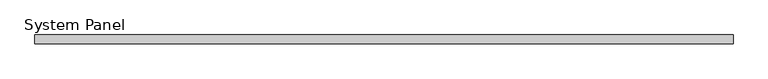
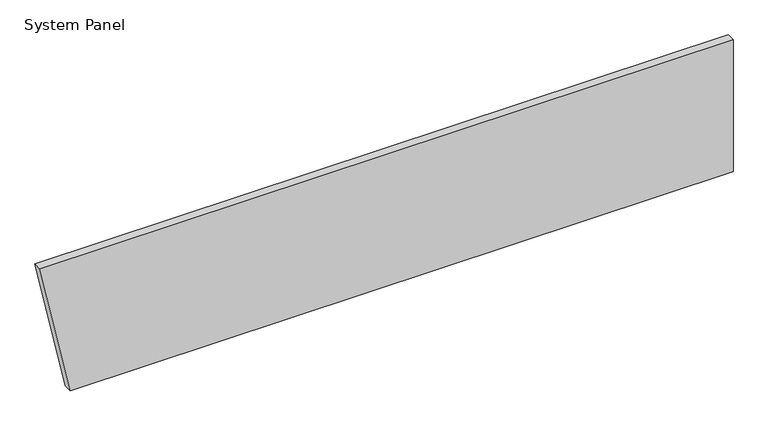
"""IFC4 building model written with IfcOpenShell, lengths in millimetres: plate geometry, System Panel : Equitilt 75mm Horizontal - Plain RHEA - EPS-FR."""

import ifcopenshell
import ifcopenshell.guid

model = None  # the IFC model being written
_history = None  # IfcOwnerHistory: only IFC2X3 demands one
_inside = {}  # id of a spatial element -> (the spatial element, [elements in it])
_under = {}  # id of a project, library or spatial element -> (it, [spatial elements below it])
_declared = {}  # id of a project -> (the project, [libraries it declares])
_typed = {}  # id of a type object -> (the type object, [elements of that type])
_made_of = {}  # id of a material, layer set ... -> (it, [elements and type objects made of it])


def new_model(schema):
    """Start an empty IFC model of exactly this schema.

    Asked for "IFC4X3", IfcOpenShell would pick the latest addendum, in which some entities
    have other attributes; the version numbers below select the first issue.
    IFC2X3 requires an IfcOwnerHistory on every rooted entity: one is made here for all.
    """
    global model, _history
    if schema == "IFC4X3":
        model = ifcopenshell.file(schema_version=(4, 3, 0, 0))
    else:
        model = ifcopenshell.file(schema=schema)
    _inside.clear()
    _under.clear()
    _declared.clear()
    _typed.clear()
    _made_of.clear()
    _history = None
    if model.schema == "IFC2X3":
        org = make("IfcOrganization", Name="unknown")
        user = make(
            "IfcPersonAndOrganization",
            ThePerson=make("IfcPerson", FamilyName="unknown"),
            TheOrganization=org,
        )
        app = make(
            "IfcApplication",
            ApplicationDeveloper=org,
            Version="unknown",
            ApplicationFullName="unknown",
            ApplicationIdentifier="unknown",
        )
        _history = make(
            "IfcOwnerHistory",
            OwningUser=user,
            OwningApplication=app,
            ChangeAction="ADDED",
            CreationDate=0,
        )
    return model


def make(cls, **values):
    """One entity of the class cls with the attributes given. An attribute that is None is left unset."""
    return model.create_entity(
        cls, **{name: value for name, value in values.items() if value is not None}
    )


def rooted(cls, **values):
    """An entity with a GlobalId (a new one), such as an element, a storey or a relation."""
    return make(cls, GlobalId=ifcopenshell.guid.new(), OwnerHistory=_history, **values)


def si_unit(unit_type, name, prefix=None):
    """IfcSIUnit, for example si_unit("LENGTHUNIT", "METRE", prefix="MILLI")."""
    return make("IfcSIUnit", UnitType=unit_type, Prefix=prefix, Name=name)


def assignment(units):
    """IfcUnitAssignment: the units of a project."""
    return None if units is None else make("IfcUnitAssignment", Units=units)


def point(xyz):
    """IfcCartesianPoint."""
    return None if xyz is None else make("IfcCartesianPoint", Coordinates=xyz)


def direction(xyz):
    """IfcDirection."""
    return None if xyz is None else make("IfcDirection", DirectionRatios=xyz)


def frame(location, z_axis=None, x_axis=None):
    """IfcAxis2Placement3D, a coordinate frame: its origin and axes. An axis left out is left unset."""
    return make(
        "IfcAxis2Placement3D",
        Location=point(location),
        Axis=direction(z_axis),
        RefDirection=direction(x_axis),
    )


def origin():
    """The frame at (0, 0, 0) with its axes left unset."""
    return frame((0.0, 0.0, 0.0))


def place(relative_to, where):
    """IfcLocalPlacement: puts the frame where relative to a parent placement (None: the world)."""
    return make(
        "IfcLocalPlacement", PlacementRelTo=relative_to, RelativePlacement=where
    )


def context(
    kind, dimensions, precision=None, world=None, true_north=None, identifier=None
):
    """IfcGeometricRepresentationContext, for example the 3D "Model" context."""
    return make(
        "IfcGeometricRepresentationContext",
        ContextIdentifier=identifier,
        ContextType=kind,
        CoordinateSpaceDimension=dimensions,
        Precision=precision,
        WorldCoordinateSystem=world,
        TrueNorth=true_north,
    )


def project(units=None, contexts=None):
    """IfcProject with its units and contexts."""
    return rooted(
        "IfcProject",
        Name="project",
        RepresentationContexts=contexts,
        UnitsInContext=assignment(units),
    )


def spatial(cls, under=None, at=None, **own):
    """A site, building, storey or space (cls), placed at a placement, below another one or the project."""
    s = rooted(cls, ObjectPlacement=at, **own)
    if under is not None:
        _under.setdefault(under.id(), (under, []))[1].append(s)
    return s


def polyline(points):
    """IfcPolyline through the points."""
    return make("IfcPolyline", Points=[point(p) for p in points])


def outline(outer, holes=None, kind="AREA"):
    """IfcArbitraryClosedProfileDef: a profile drawn as a closed curve; with holes, ...WithVoids."""
    if holes is None:
        return make("IfcArbitraryClosedProfileDef", ProfileType=kind, OuterCurve=outer)
    return make(
        "IfcArbitraryProfileDefWithVoids",
        ProfileType=kind,
        OuterCurve=outer,
        InnerCurves=holes,
    )


def extrude(swept, where, along, depth):
    """IfcExtrudedAreaSolid: the profile swept, set in the frame where, extruded along a direction by depth."""
    return make(
        "IfcExtrudedAreaSolid",
        SweptArea=swept,
        Position=where,
        ExtrudedDirection=direction(along),
        Depth=depth,
    )


def shape(context_of_items, identifier, shape_type, items):
    """IfcShapeRepresentation: the items that make up one representation, for example the "Body"."""
    return make(
        "IfcShapeRepresentation",
        ContextOfItems=context_of_items,
        RepresentationIdentifier=identifier,
        RepresentationType=shape_type,
        Items=items,
    )


def source(mapping_origin, context_of_items, identifier, shape_type, items):
    """IfcRepresentationMap: a shape defined once, which mapped items show again and again."""
    return make(
        "IfcRepresentationMap",
        MappingOrigin=mapping_origin,
        MappedRepresentation=shape(context_of_items, identifier, shape_type, items),
    )


def transform(
    local_origin,
    x_axis=None,
    y_axis=None,
    z_axis=None,
    scale=None,
    scale2=None,
    scale3=None,
    uniform=True,
):
    """IfcCartesianTransformationOperator3D, or its non-uniform kind. x_axis, y_axis, z_axis: its Axis1, 2, 3."""
    if uniform:
        return make(
            "IfcCartesianTransformationOperator3D",
            Axis1=direction(x_axis),
            Axis2=direction(y_axis),
            LocalOrigin=point(local_origin),
            Scale=scale,
            Axis3=direction(z_axis),
        )
    return make(
        "IfcCartesianTransformationOperator3DnonUniform",
        Axis1=direction(x_axis),
        Axis2=direction(y_axis),
        LocalOrigin=point(local_origin),
        Scale=scale,
        Axis3=direction(z_axis),
        Scale2=scale2,
        Scale3=scale3,
    )


def mapped(mapping_source, mapping_target):
    """IfcMappedItem: shows the shape of a source again, moved by a transform."""
    return make(
        "IfcMappedItem", MappingSource=mapping_source, MappingTarget=mapping_target
    )


def made_of(thing, what):
    """Note that an element or type object is made of a material, layer set ...; save() writes the relation."""
    if what is not None:
        _made_of.setdefault(what.id(), (what, []))[1].append(thing)
    return thing


def element(
    cls,
    number,
    at=None,
    inside=None,
    cuts=None,
    type_object=None,
    material=None,
    context=None,
    identifier="Body",
    shape_type=None,
    held_by="IfcProductDefinitionShape",
    body=None,
    shapes=None,
    **own,
):
    """One element of the class cls, such as IfcWall. Its Tag is "e" and its number.

    at: its placement. inside: the storey or other place that contains it. cuts: it is an
    opening in that element (IfcRelVoidsElement). A single representation is given by context,
    identifier, shape_type and body (its items); several are given by shapes. held_by: the class
    of the entity that holds the representations. save() writes the other relations.
    """
    e = rooted(cls, Tag="e%d" % number, ObjectPlacement=at, **own)
    if body is not None:
        shapes = [shape(context, identifier, shape_type, body)]
    if shapes is not None:
        e.Representation = make(held_by, Representations=shapes)
    if inside is not None:
        _inside.setdefault(inside.id(), (inside, []))[1].append(e)
    if cuts is not None:
        rooted(
            "IfcRelVoidsElement", RelatingBuildingElement=cuts, RelatedOpeningElement=e
        )
    if type_object is not None:
        _typed.setdefault(type_object.id(), (type_object, []))[1].append(e)
    return made_of(e, material)


def aggregate(whole, parts):
    """IfcRelAggregates: a whole, such as a stair, and the parts it consists of."""
    return rooted("IfcRelAggregates", RelatingObject=whole, RelatedObjects=parts)


def save(model, path):
    """Write the relations noted so far, then the file.

    IfcRelAggregates (storeys below a building ...), IfcRelContainedInSpatialStructure (elements
    in a storey), IfcRelDefinesByType, IfcRelAssociatesMaterial and IfcRelDeclares: one each for
    every whole, place, type object, material and project.
    """
    for whole, parts in _under.values():
        aggregate(whole, parts)
    for where, things in _inside.values():
        rooted(
            "IfcRelContainedInSpatialStructure",
            RelatedElements=things,
            RelatingStructure=where,
        )
    for kind, things in _typed.values():
        rooted("IfcRelDefinesByType", RelatedObjects=things, RelatingType=kind)
    for what, things in _made_of.values():
        rooted("IfcRelAssociatesMaterial", RelatedObjects=things, RelatingMaterial=what)
    for by, libraries in _declared.values():
        rooted("IfcRelDeclares", RelatingContext=by, RelatedDefinitions=libraries)
    model.write(path)


def system_panel_ffccc5ed(model_context):
    return source(origin(), model_context, "Body", "SweptSolid", [
        extrude(outline(polyline([(0.0, -2720.4358309), (0.0, 2981.3074928), (1200.0, 2981.3074928), (1200.0, -2981.3074928), (0.0, -2720.4358309)])), frame((0.0, -75.0, 0.0), z_axis=(0.0, 1.0, 0.0), x_axis=(0.0, 0.0, 1.0)), (0.0, 0.0, 1.0), 75.0),
    ])


if __name__ == "__main__":
    model = new_model("IFC4")
    model_context = context("Model", 3, world=origin())
    ifc_project = project(units=[si_unit("LENGTHUNIT", "METRE", prefix="MILLI")], contexts=[model_context])
    site = spatial("IfcSite", under=ifc_project)
    building = spatial("IfcBuilding", under=site)
    placement = place(None, origin())
    system_panel_shape = system_panel_ffccc5ed(model_context)
    element("IfcPlate", 1, ObjectType="System Panel : Equitilt 75mm Horizontal - Plain RHEA - EPS-FR", at=placement, inside=building, context=model_context, shape_type="MappedRepresentation", body=[
        mapped(system_panel_shape, transform((0.0, 0.0, 0.0), x_axis=(1.0, 0.0, 0.0), y_axis=(0.0, 1.0, 0.0), z_axis=(0.0, 0.0, 1.0))),
    ])
    save(model, "model.ifc")
